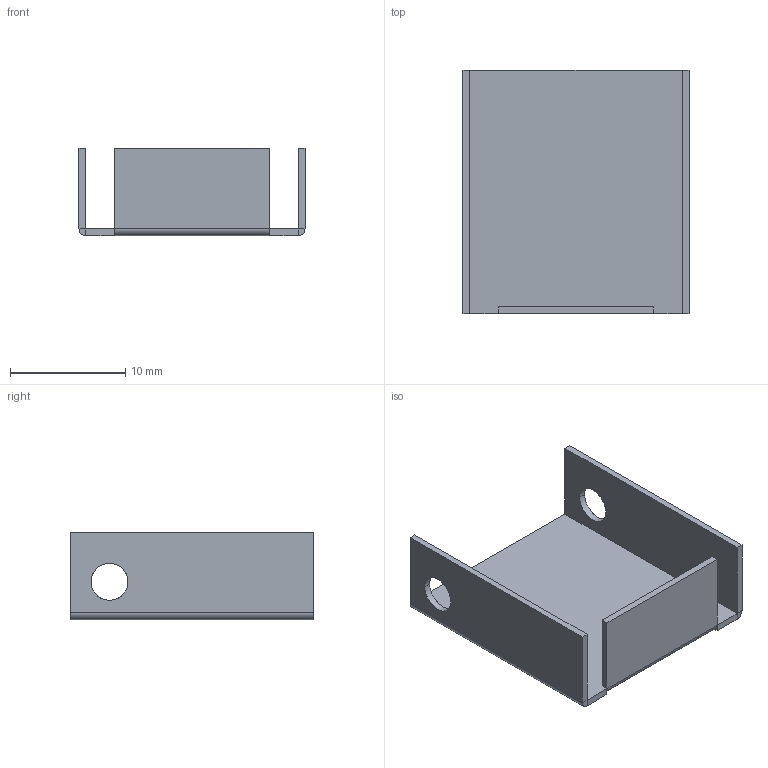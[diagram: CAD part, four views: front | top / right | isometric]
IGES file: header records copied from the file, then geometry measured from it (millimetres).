
Start section: SolidWorks IGES FILE using analytic representation for surfaces
Global section: file name: C:\Documents and Settings\lecoutey\Bureau\GP 16\10.070.10.IGS; native system: SolidWorks 2004 by SolidWorks Corporation; preprocessor: Version 5.3; author: lecoutey; date: 050329.133812; units: millimetre
Bounding box: 19.6 x 21.1 x 7.6 mm (x, y, z)
Surface area: 1646.4 mm2 (no closed solid volume)
Topology: 0 solids, 0 shells, 33 faces, 280 edges, 280 vertices
Faces by surface type: bspline 26, revolution 7
